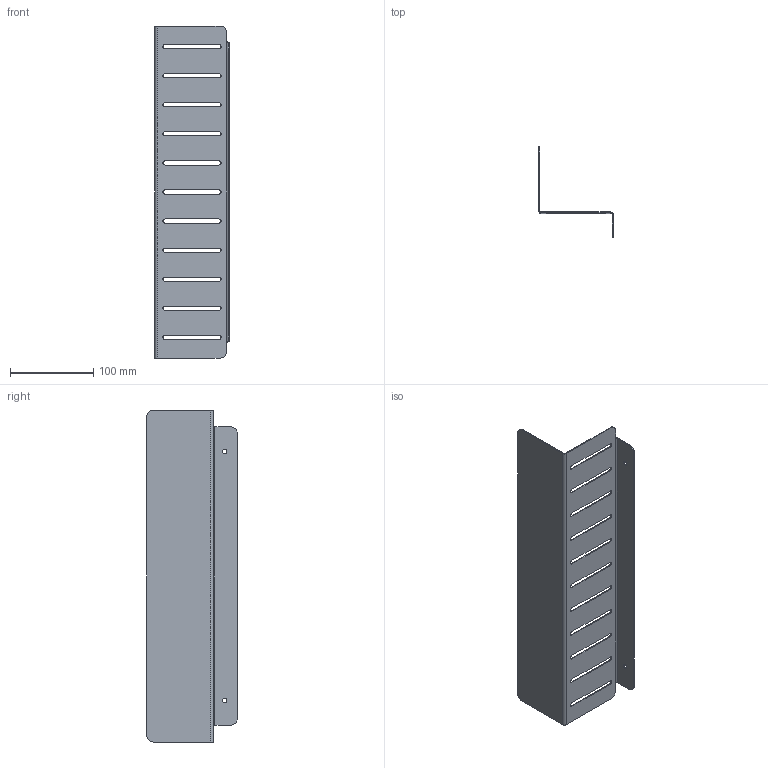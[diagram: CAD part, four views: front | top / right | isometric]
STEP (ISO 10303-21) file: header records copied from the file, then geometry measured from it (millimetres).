
FILE_DESCRIPTION((''),'2;1');
FILE_NAME('20210721-5301DD','2022-05-14T11:22:25',('Administrator'),(''),'CREO PARAMETRIC BY PTC INC, 2019471','CREO PARAMETRIC BY PTC INC, 2019471','');
FILE_SCHEMA(('CONFIG_CONTROL_DESIGN'));
Length unit declared in the file: millimetre
Products named in the file (1): 20210721-5301DD
Bounding box: 90 x 108.8 x 400 mm (x, y, z)
Volume: 87591.3 mm3; surface area: 149352.5 mm2
Topology: 1 solids, 1 shells, 74 faces, 210 edges, 138 vertices
Faces by surface type: cylinder 38, plane 36
Entity records: 2528 total; most frequent: CARTESIAN_POINT 452, DIRECTION 424, ORIENTED_EDGE 420, EDGE_CURVE 210, AXIS2_PLACEMENT_3D 144, VERTEX_POINT 138, VECTOR 136, LINE 136
